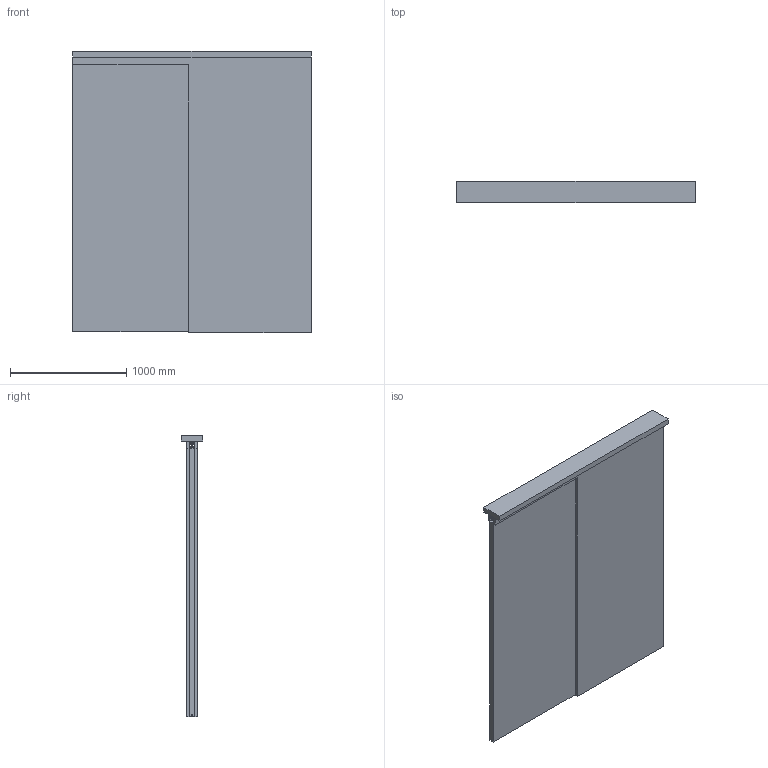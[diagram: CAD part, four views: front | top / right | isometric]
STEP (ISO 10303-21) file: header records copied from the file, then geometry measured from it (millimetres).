
FILE_DESCRIPTION(('STEP AP242'),'1');
FILE_NAME('OPO_65.080.02.stp','2026-01-14T05:23:52',(' '),(' '),'Spatial InterOp 3D',' ',' ');
FILE_SCHEMA(('AP242_MANAGED_MODEL_BASED_3D_ENGINEERING_MIM_LF {1 0 10303 442 1 1 4}'));
Length unit declared in the file: millimetre
Products named in the file (6): Zeichnung2; OPO_65.080.02_Aufhaengung_Holz; OPO_65.082.78; OPO_65.080.02_Laufwerk; OPO_65.082.75; AutoCreatedBlock_117
Assembly tree (8 placements, depth 2):
  Zeichnung2
    OPO_65.080.02_Aufhaengung_Holz  x2
    OPO_65.082.78  x2
    OPO_65.080.02_Laufwerk  x2
    OPO_65.082.75
    AutoCreatedBlock_117
Bounding box: 2050 x 188 x 2418 mm (x, y, z)
Volume: 214356601.7 mm3; surface area: 17273521.1 mm2
Topology: 64 solids, 64 shells, 1052 faces, 2658 edges, 1756 vertices
Faces by surface type: plane 600, cylinder 428, cone 24
Entity records: 23478 total; most frequent: CARTESIAN_POINT 3282, DIRECTION 3251, ORIENTED_EDGE 3070, EDGE_CURVE 1535, AXIS2_PLACEMENT_3D 1104, LINE 1043, VECTOR 1043, VERTEX_POINT 1016
